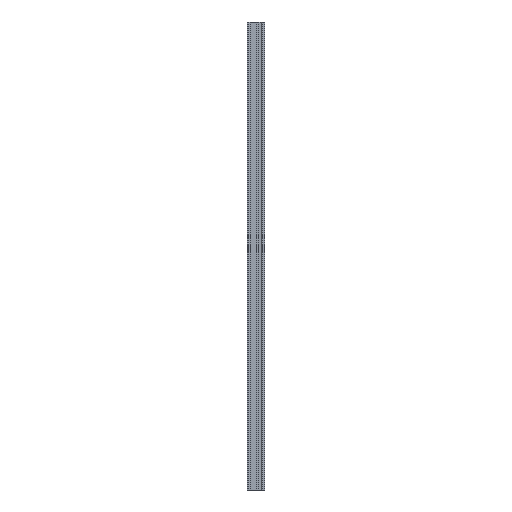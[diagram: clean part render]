
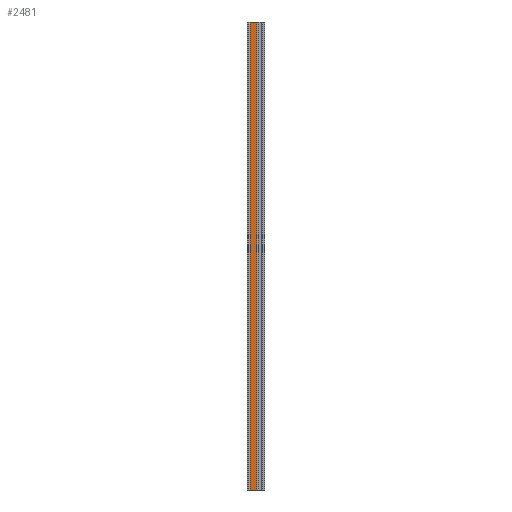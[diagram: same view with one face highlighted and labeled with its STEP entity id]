
A CAD part, left-side view. The second image highlights one B-rep face of the part: STEP entity #2481.
In plain terms, the highlighted planar face has unit normal (-1, 0, 0).
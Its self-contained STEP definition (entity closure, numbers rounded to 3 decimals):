
#295=FACE_OUTER_BOUND('',#455,.T.);
#455=EDGE_LOOP('',(#2215,#2216,#2217,#2218));
#618=LINE('',#3860,#884);
#713=LINE('',#4075,#979);
#714=LINE('',#4078,#980);
#715=LINE('',#4079,#981);
#884=VECTOR('',#3169,10.);
#979=VECTOR('',#3360,10.);
#980=VECTOR('',#3363,10.);
#981=VECTOR('',#3364,10.);
#1151=VERTEX_POINT('',#3857);
#1152=VERTEX_POINT('',#3859);
#1224=VERTEX_POINT('',#4073);
#1225=VERTEX_POINT('',#4077);
#1459=EDGE_CURVE('',#1151,#1152,#618,.T.);
#1567=EDGE_CURVE('',#1224,#1152,#713,.T.);
#1568=EDGE_CURVE('',#1225,#1224,#714,.T.);
#1569=EDGE_CURVE('',#1225,#1151,#715,.T.);
#2215=ORIENTED_EDGE('',*,*,#1568,.T.);
#2216=ORIENTED_EDGE('',*,*,#1567,.T.);
#2217=ORIENTED_EDGE('',*,*,#1459,.F.);
#2218=ORIENTED_EDGE('',*,*,#1569,.F.);
#2363=PLANE('',#2710);
#2481=ADVANCED_FACE('',(#295),#2363,.T.);
#2710=AXIS2_PLACEMENT_3D('',#4076,#3361,#3362);
#3169=DIRECTION('',(0.,-1.,0.));
#3360=DIRECTION('',(0.,0.,1.));
#3361=DIRECTION('center_axis',(-1.,0.,0.));
#3362=DIRECTION('ref_axis',(0.,-1.,0.));
#3363=DIRECTION('',(0.,-1.,0.));
#3364=DIRECTION('',(0.,0.,1.));
#3857=CARTESIAN_POINT('',(-13.5,12.5,397.));
#3859=CARTESIAN_POINT('',(-13.5,7.,397.));
#3860=CARTESIAN_POINT('',(-13.5,12.5,397.));
#4073=CARTESIAN_POINT('',(-13.5,7.,0.));
#4075=CARTESIAN_POINT('',(-13.5,7.,0.));
#4076=CARTESIAN_POINT('Origin',(-13.5,12.5,0.));
#4077=CARTESIAN_POINT('',(-13.5,12.5,0.));
#4078=CARTESIAN_POINT('',(-13.5,12.5,0.));
#4079=CARTESIAN_POINT('',(-13.5,12.5,0.));
